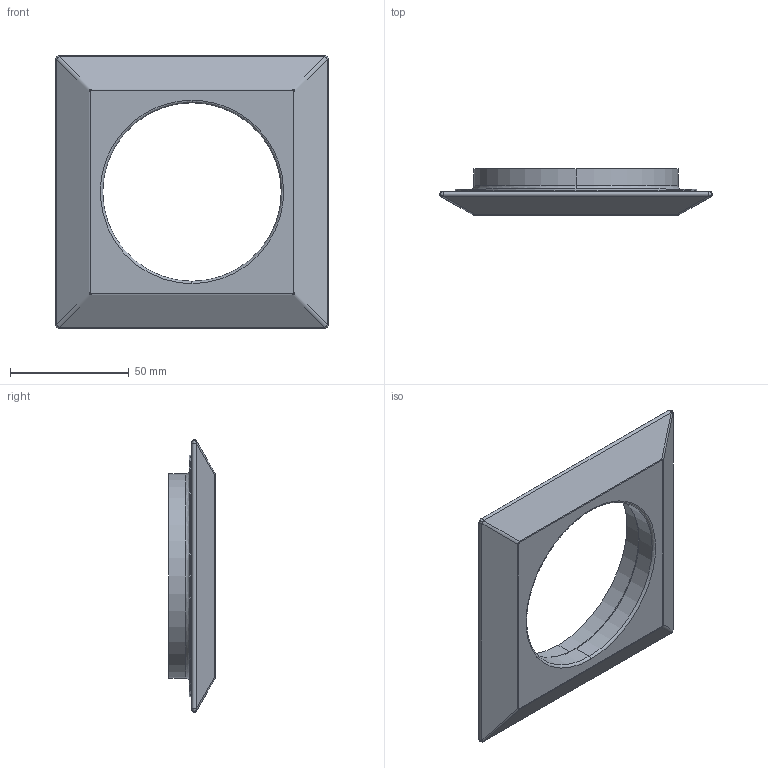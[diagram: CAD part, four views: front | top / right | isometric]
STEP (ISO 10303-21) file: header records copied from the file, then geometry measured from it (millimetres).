
FILE_DESCRIPTION (( 'STEP AP203' ), '1' );
FILE_NAME ('MIRA 2_STEP.STEP', '2015-12-10T08:31:52', ( 'admin' ), ( '' ), 'SwSTEP 2.0', 'SolidWorks 2015', '' );
FILE_SCHEMA (( 'CONFIG_CONTROL_DESIGN' ));
Length unit declared in the file: millimetre
Products named in the file (2): MIRA 2_STEP
Bounding box: 114.54 x 19.53 x 114.54 mm (x, y, z)
Volume: 67873.3 mm3; surface area: 31407.4 mm2
Topology: 2 solids, 2 shells, 55 faces, 124 edges, 74 vertices
Faces by surface type: bspline 24, cylinder 18, plane 9, cone 4
Entity records: 2339 total; most frequent: CARTESIAN_POINT 1120, ORIENTED_EDGE 248, DIRECTION 188, EDGE_CURVE 124, AXIS2_PLACEMENT_3D 77, VERTEX_POINT 74, EDGE_LOOP 60, ADVANCED_FACE 55
